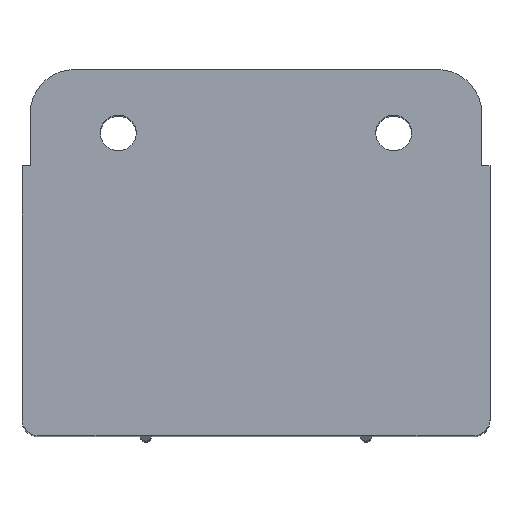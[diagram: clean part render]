
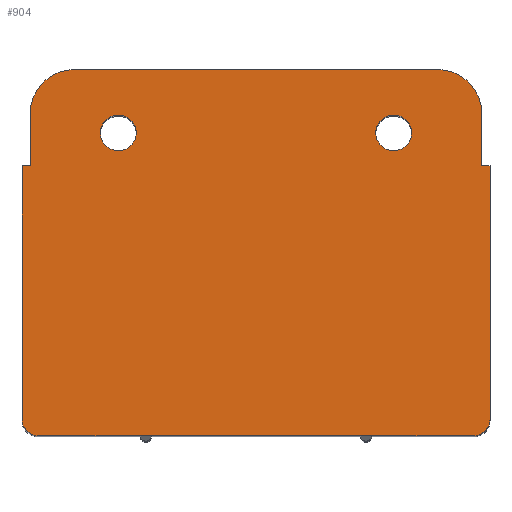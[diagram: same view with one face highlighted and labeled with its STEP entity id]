
A CAD part, top view. The second image highlights one B-rep face of the part: STEP entity #904.
In plain terms, the highlighted planar face has unit normal (0, 0, 1).
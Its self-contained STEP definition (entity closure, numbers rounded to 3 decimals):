
#23=FACE_BOUND('',#125,.T.);
#24=FACE_BOUND('',#126,.T.);
#33=PLANE('',#981);
#70=FACE_OUTER_BOUND('',#124,.T.);
#124=EDGE_LOOP('',(#651,#652,#653,#654,#655,#656,#657,#658,#659,#660,#661,
#662,#663,#664,#665,#666));
#125=EDGE_LOOP('',(#667));
#126=EDGE_LOOP('',(#668));
#190=LINE('',#1381,#286);
#193=LINE('',#1387,#289);
#194=LINE('',#1391,#290);
#195=LINE('',#1393,#291);
#196=LINE('',#1395,#292);
#197=LINE('',#1399,#293);
#198=LINE('',#1401,#294);
#199=LINE('',#1403,#295);
#200=LINE('',#1405,#296);
#201=LINE('',#1407,#297);
#202=LINE('',#1411,#298);
#203=LINE('',#1412,#299);
#286=VECTOR('',#1103,10.);
#289=VECTOR('',#1108,10.);
#290=VECTOR('',#1111,10.);
#291=VECTOR('',#1112,10.);
#292=VECTOR('',#1113,10.);
#293=VECTOR('',#1116,10.);
#294=VECTOR('',#1117,10.);
#295=VECTOR('',#1118,10.);
#296=VECTOR('',#1119,10.);
#297=VECTOR('',#1120,10.);
#298=VECTOR('',#1123,10.);
#299=VECTOR('',#1124,10.);
#376=CIRCLE('',#979,8.);
#377=CIRCLE('',#982,8.);
#378=CIRCLE('',#983,3.);
#379=CIRCLE('',#984,3.);
#380=CIRCLE('',#985,3.25);
#381=CIRCLE('',#986,3.25);
#418=VERTEX_POINT('',#1374);
#419=VERTEX_POINT('',#1376);
#420=VERTEX_POINT('',#1380);
#422=VERTEX_POINT('',#1386);
#423=VERTEX_POINT('',#1388);
#424=VERTEX_POINT('',#1390);
#425=VERTEX_POINT('',#1392);
#426=VERTEX_POINT('',#1394);
#427=VERTEX_POINT('',#1396);
#428=VERTEX_POINT('',#1398);
#429=VERTEX_POINT('',#1400);
#430=VERTEX_POINT('',#1402);
#431=VERTEX_POINT('',#1404);
#432=VERTEX_POINT('',#1406);
#433=VERTEX_POINT('',#1408);
#434=VERTEX_POINT('',#1410);
#435=VERTEX_POINT('',#1413);
#436=VERTEX_POINT('',#1415);
#506=EDGE_CURVE('',#418,#419,#376,.T.);
#508=EDGE_CURVE('',#420,#419,#190,.T.);
#511=EDGE_CURVE('',#422,#418,#193,.T.);
#512=EDGE_CURVE('',#423,#422,#377,.T.);
#513=EDGE_CURVE('',#424,#423,#194,.T.);
#514=EDGE_CURVE('',#424,#425,#195,.T.);
#515=EDGE_CURVE('',#425,#426,#196,.T.);
#516=EDGE_CURVE('',#427,#426,#378,.T.);
#517=EDGE_CURVE('',#427,#428,#197,.T.);
#518=EDGE_CURVE('',#428,#429,#198,.T.);
#519=EDGE_CURVE('',#429,#430,#199,.T.);
#520=EDGE_CURVE('',#430,#431,#200,.T.);
#521=EDGE_CURVE('',#431,#432,#201,.T.);
#522=EDGE_CURVE('',#433,#432,#379,.T.);
#523=EDGE_CURVE('',#433,#434,#202,.T.);
#524=EDGE_CURVE('',#434,#420,#203,.T.);
#525=EDGE_CURVE('',#435,#435,#380,.T.);
#526=EDGE_CURVE('',#436,#436,#381,.T.);
#651=ORIENTED_EDGE('',*,*,#506,.F.);
#652=ORIENTED_EDGE('',*,*,#511,.F.);
#653=ORIENTED_EDGE('',*,*,#512,.F.);
#654=ORIENTED_EDGE('',*,*,#513,.F.);
#655=ORIENTED_EDGE('',*,*,#514,.T.);
#656=ORIENTED_EDGE('',*,*,#515,.T.);
#657=ORIENTED_EDGE('',*,*,#516,.F.);
#658=ORIENTED_EDGE('',*,*,#517,.T.);
#659=ORIENTED_EDGE('',*,*,#518,.T.);
#660=ORIENTED_EDGE('',*,*,#519,.T.);
#661=ORIENTED_EDGE('',*,*,#520,.T.);
#662=ORIENTED_EDGE('',*,*,#521,.T.);
#663=ORIENTED_EDGE('',*,*,#522,.F.);
#664=ORIENTED_EDGE('',*,*,#523,.T.);
#665=ORIENTED_EDGE('',*,*,#524,.T.);
#666=ORIENTED_EDGE('',*,*,#508,.T.);
#667=ORIENTED_EDGE('',*,*,#525,.T.);
#668=ORIENTED_EDGE('',*,*,#526,.T.);
#904=ADVANCED_FACE('',(#70,#23,#24),#33,.T.);
#979=AXIS2_PLACEMENT_3D('',#1377,#1098,#1099);
#981=AXIS2_PLACEMENT_3D('',#1385,#1106,#1107);
#982=AXIS2_PLACEMENT_3D('',#1389,#1109,#1110);
#983=AXIS2_PLACEMENT_3D('',#1397,#1114,#1115);
#984=AXIS2_PLACEMENT_3D('',#1409,#1121,#1122);
#985=AXIS2_PLACEMENT_3D('',#1414,#1125,#1126);
#986=AXIS2_PLACEMENT_3D('',#1416,#1127,#1128);
#1098=DIRECTION('center_axis',(0.,0.,-1.));
#1099=DIRECTION('ref_axis',(0.707,0.707,0.));
#1103=DIRECTION('',(0.,1.,0.));
#1106=DIRECTION('center_axis',(0.,0.,1.));
#1107=DIRECTION('ref_axis',(1.,0.,0.));
#1108=DIRECTION('',(1.,0.,0.));
#1109=DIRECTION('center_axis',(0.,0.,-1.));
#1110=DIRECTION('ref_axis',(-0.707,0.707,0.));
#1111=DIRECTION('',(0.,1.,0.));
#1112=DIRECTION('',(-1.,0.,0.));
#1113=DIRECTION('',(0.,-1.,0.));
#1114=DIRECTION('center_axis',(0.,0.,-1.));
#1115=DIRECTION('ref_axis',(-0.707,-0.707,0.));
#1116=DIRECTION('',(1.,0.,0.));
#1117=DIRECTION('',(1.,0.,0.));
#1118=DIRECTION('',(1.,0.,0.));
#1119=DIRECTION('',(1.,0.,0.));
#1120=DIRECTION('',(1.,0.,0.));
#1121=DIRECTION('center_axis',(0.,0.,-1.));
#1122=DIRECTION('ref_axis',(0.707,-0.707,0.));
#1123=DIRECTION('',(0.,1.,0.));
#1124=DIRECTION('',(-1.,0.,0.));
#1125=DIRECTION('center_axis',(0.,0.,-1.));
#1126=DIRECTION('ref_axis',(1.,0.,0.));
#1127=DIRECTION('center_axis',(0.,0.,-1.));
#1128=DIRECTION('ref_axis',(1.,0.,0.));
#1374=CARTESIAN_POINT('',(33.,66.5,124.));
#1376=CARTESIAN_POINT('',(41.,58.5,124.));
#1377=CARTESIAN_POINT('Origin',(33.,58.5,124.));
#1380=CARTESIAN_POINT('',(41.,49.,124.));
#1381=CARTESIAN_POINT('',(41.,1.5,124.));
#1385=CARTESIAN_POINT('Origin',(0.,24.,124.));
#1386=CARTESIAN_POINT('',(-33.,66.5,124.));
#1387=CARTESIAN_POINT('',(41.,66.5,124.));
#1388=CARTESIAN_POINT('',(-41.,58.5,124.));
#1389=CARTESIAN_POINT('Origin',(-33.,58.5,124.));
#1390=CARTESIAN_POINT('',(-41.,49.,124.));
#1391=CARTESIAN_POINT('',(-41.,1.5,124.));
#1392=CARTESIAN_POINT('',(-42.5,49.,124.));
#1393=CARTESIAN_POINT('',(-42.5,49.,124.));
#1394=CARTESIAN_POINT('',(-42.5,3.,124.));
#1395=CARTESIAN_POINT('',(-42.5,0.,124.));
#1396=CARTESIAN_POINT('',(-39.5,0.,124.));
#1397=CARTESIAN_POINT('Origin',(-39.5,3.,124.));
#1398=CARTESIAN_POINT('',(-21.,0.,124.));
#1399=CARTESIAN_POINT('',(0.,0.,124.));
#1400=CARTESIAN_POINT('',(-19.,0.,124.));
#1401=CARTESIAN_POINT('',(0.,0.,124.));
#1402=CARTESIAN_POINT('',(19.,0.,124.));
#1403=CARTESIAN_POINT('',(0.,0.,124.));
#1404=CARTESIAN_POINT('',(21.,0.,124.));
#1405=CARTESIAN_POINT('',(0.,0.,124.));
#1406=CARTESIAN_POINT('',(39.5,0.,124.));
#1407=CARTESIAN_POINT('',(0.,0.,124.));
#1408=CARTESIAN_POINT('',(42.5,3.,124.));
#1409=CARTESIAN_POINT('Origin',(39.5,3.,124.));
#1410=CARTESIAN_POINT('',(42.5,49.,124.));
#1411=CARTESIAN_POINT('',(42.5,0.,124.));
#1412=CARTESIAN_POINT('',(42.5,49.,124.));
#1413=CARTESIAN_POINT('',(21.75,55.,124.));
#1414=CARTESIAN_POINT('Origin',(25.,55.,124.));
#1415=CARTESIAN_POINT('',(-28.25,55.,124.));
#1416=CARTESIAN_POINT('Origin',(-25.,55.,124.));
